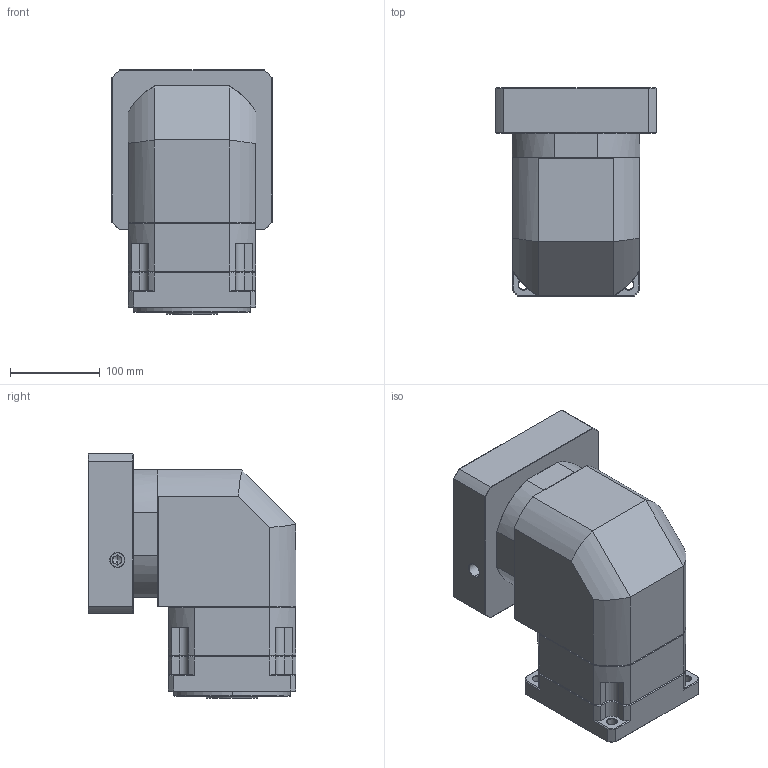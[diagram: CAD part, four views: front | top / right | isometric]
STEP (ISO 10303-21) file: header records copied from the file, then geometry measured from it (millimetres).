
FILE_DESCRIPTION (( 'STEP AP214' ), '1' );
FILE_NAME ('ZBR142A-K35-L1-P2-35-114.3-200-M12.step', '2023-09-02T07:15:41', ( '' ), ( '' ), 'SwSTEP 2.0', 'SolidWorks 2016', '' );
FILE_SCHEMA (( 'AUTOMOTIVE_DESIGN' ));
Length unit declared in the file: millimetre
Products named in the file (1): ZBR142A-K35-L1-P2-35-114.3-200-M12
Bounding box: 178 x 231 x 271.7 mm (x, y, z)
Volume: 5825713.5 mm3; surface area: 420229.9 mm2
Topology: 6 solids, 6 shells, 2239 faces, 5911 edges, 3778 vertices
Faces by surface type: plane 1113, bspline 403, cylinder 377, cone 326, torus 20
Entity records: 122162 total; most frequent: CARTESIAN_POINT 45249, ORIENTED_EDGE 11766, DIRECTION 9327, EDGE_CURVE 5883, VECTOR 3839, LINE 3839, VERTEX_POINT 3778, AXIS2_PLACEMENT_3D 2744
